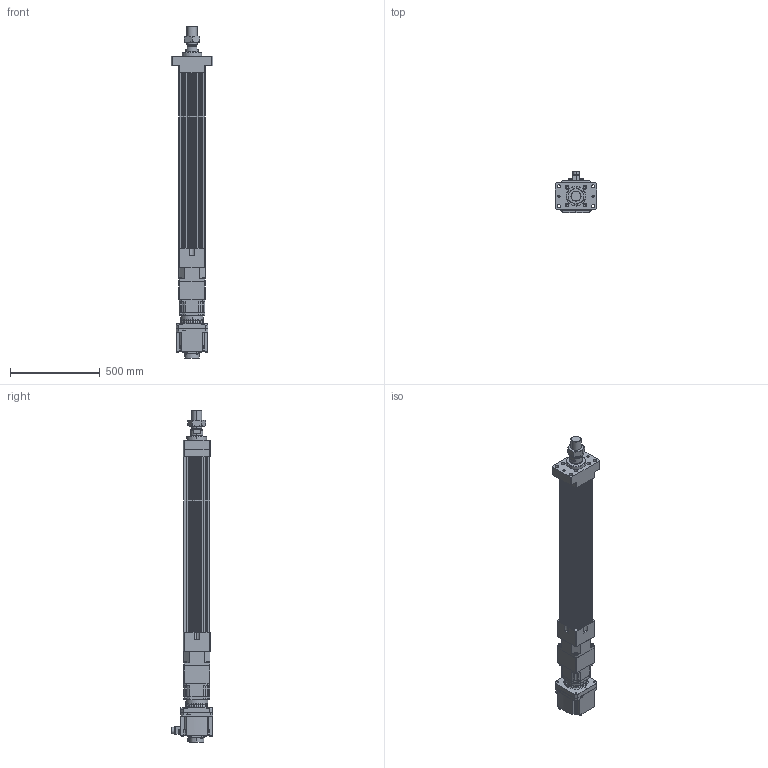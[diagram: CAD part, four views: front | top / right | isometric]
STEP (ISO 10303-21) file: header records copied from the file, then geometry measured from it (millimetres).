
FILE_DESCRIPTION (( 'STEP AP203' ), '1' );
FILE_NAME ('HES150NS(HS)-S700-W035G00-M-FM.STEP', '2023-02-01T04:51:20', ( 'tms' ), ( '' ), 'SwSTEP 2.0', 'SolidWorks 2013', '' );
FILE_SCHEMA (( 'CONFIG_CONTROL_DESIGN' ));
Length unit declared in the file: millimetre
Products named in the file (9): HG-SR352; HES150-S700-G142-FM; HES150NS(HS)-S700-W035G00-M-FM; M56X2.0P; HES150 ROD M ST700; P0403500801; P1301500001; AB142-003[HG-SR352]; AB1421
Assembly tree (8 placements, depth 3):
  HES150NS(HS)-S700-W035G00-M-FM
    HES150-S700-G142-FM
    HES150 ROD M ST700
    M56X2.0P
    AB142-003[HG-SR352]
      AB1421
      P1301500001
      P0403500801
    HG-SR352
Bounding box: 230 x 228.85 x 1847.5 mm (x, y, z)
Volume: 20964216 mm3; surface area: 2320712.6 mm2
Topology: 5 solids, 23 shells, 1508 faces, 3908 edges, 2538 vertices
Faces by surface type: cylinder 687, plane 587, cone 152, bspline 76, torus 6
Entity records: 55082 total; most frequent: CARTESIAN_POINT 16753, DIRECTION 8014, ORIENTED_EDGE 7718, EDGE_CURVE 3881, AXIS2_PLACEMENT_3D 3024, VERTEX_POINT 2538, VECTOR 1966, LINE 1966
